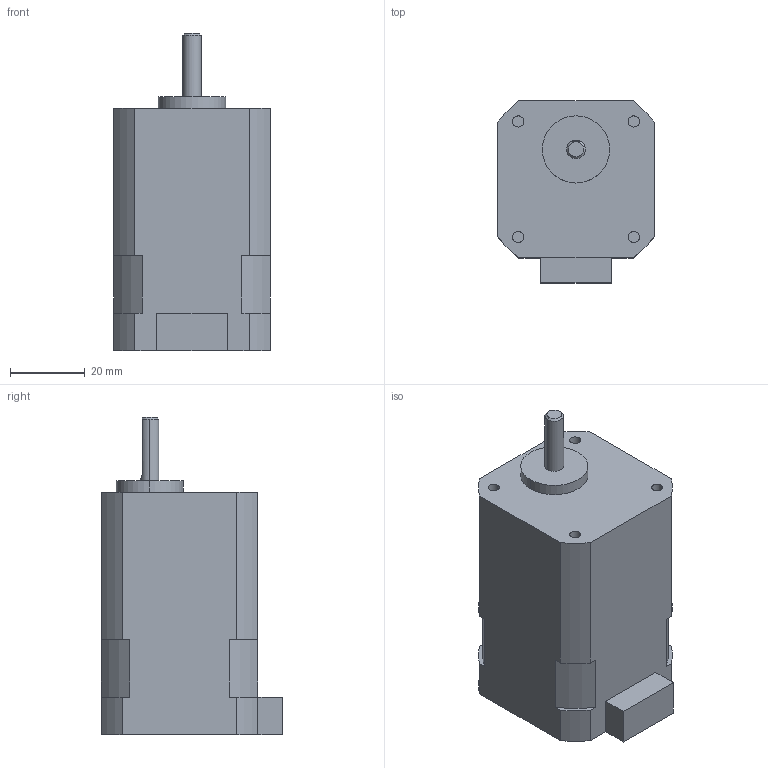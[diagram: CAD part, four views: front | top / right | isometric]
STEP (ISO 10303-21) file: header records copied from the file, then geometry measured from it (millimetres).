
FILE_DESCRIPTION (( 'STEP AP203' ), '1' );
FILE_NAME ('PMSA-U42D1-S仭_3D.STEP', '2020-12-07T06:20:17', ( '' ), ( '' ), 'SwSTEP 2.0', 'SolidWorks 2018', '' );
FILE_SCHEMA (( 'CONFIG_CONTROL_DESIGN' ));
Length unit declared in the file: millimetre
Products named in the file (1): PMSA-U42D1-S仭_3D
Bounding box: 42 x 48.7 x 85 mm (x, y, z)
Volume: 112424.3 mm3; surface area: 14573.6 mm2
Topology: 1 solids, 1 shells, 53 faces, 132 edges, 87 vertices
Faces by surface type: cylinder 25, plane 25, cone 3
Entity records: 1704 total; most frequent: CARTESIAN_POINT 312, DIRECTION 289, ORIENTED_EDGE 264, EDGE_CURVE 132, AXIS2_PLACEMENT_3D 106, VERTEX_POINT 87, VECTOR 77, LINE 77
